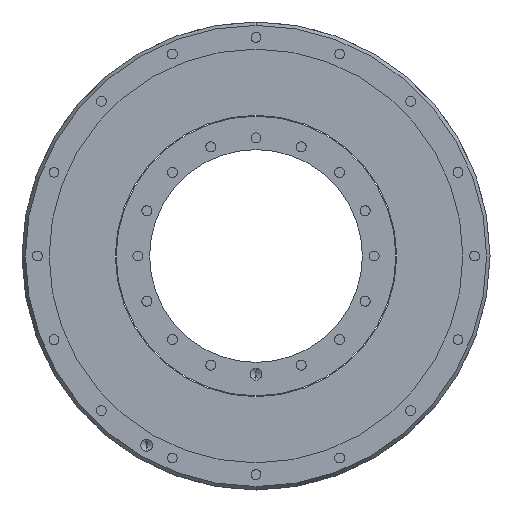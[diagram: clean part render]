
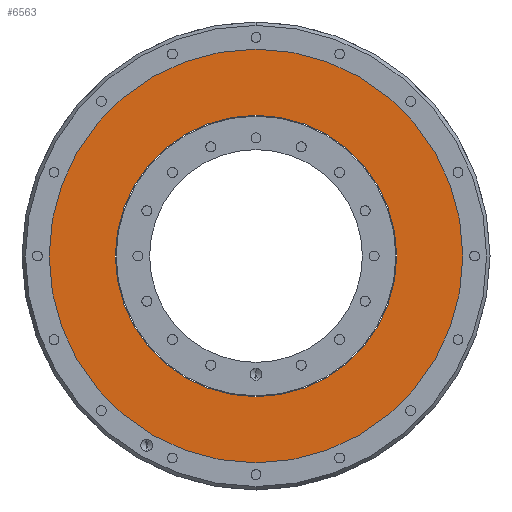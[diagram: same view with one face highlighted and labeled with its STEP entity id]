
A CAD part, front view. The second image highlights one B-rep face of the part: STEP entity #6563.
In plain terms, the highlighted planar face has unit normal (0, -1, 0).
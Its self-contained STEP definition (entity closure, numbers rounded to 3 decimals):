
#366 = EDGE_LOOP ( 'NONE', ( #6427, #8391 ) ) ;
#499 = ORIENTED_EDGE ( 'NONE', *, *, #5789, .T. ) ;
#821 = CARTESIAN_POINT ( 'NONE',  ( 0., 1., 59.5 ) ) ;
#1467 = FACE_BOUND ( 'NONE', #366, .T. ) ;
#1478 = CARTESIAN_POINT ( 'NONE',  ( 0., 1., -87.5 ) ) ;
#1723 = VERTEX_POINT ( 'NONE', #821 ) ;
#1930 = CIRCLE ( 'NONE', #7604, 59.5 ) ;
#2099 = CARTESIAN_POINT ( 'NONE',  ( 0., 1., 0. ) ) ;
#2372 = CARTESIAN_POINT ( 'NONE',  ( 0., 1., 0. ) ) ;
#2464 = EDGE_LOOP ( 'NONE', ( #6570, #499 ) ) ;
#2702 = VERTEX_POINT ( 'NONE', #3751 ) ;
#2814 = DIRECTION ( 'NONE',  ( 0., -1., 0. ) ) ;
#2824 = EDGE_CURVE ( 'NONE', #8951, #2702, #7439, .T. ) ;
#3088 = DIRECTION ( 'NONE',  ( 0., -1., 0. ) ) ;
#3112 = DIRECTION ( 'NONE',  ( 0., -1., 0. ) ) ;
#3142 = CIRCLE ( 'NONE', #8598, 59.5 ) ;
#3240 = FACE_OUTER_BOUND ( 'NONE', #2464, .T. ) ;
#3414 = CARTESIAN_POINT ( 'NONE',  ( 0., 1., 0. ) ) ;
#3526 = DIRECTION ( 'NONE',  ( 0., -1., 0. ) ) ;
#3751 = CARTESIAN_POINT ( 'NONE',  ( 0., 1., 87.5 ) ) ;
#3869 = DIRECTION ( 'NONE',  ( 0., 0., -1. ) ) ;
#3901 = CARTESIAN_POINT ( 'NONE',  ( 59.5, 1., 0. ) ) ;
#4230 = DIRECTION ( 'NONE',  ( 0., 0., -1. ) ) ;
#4421 = AXIS2_PLACEMENT_3D ( 'NONE', #3901, #7326, #3869 ) ;
#4617 = CARTESIAN_POINT ( 'NONE',  ( 0., 1., -59.5 ) ) ;
#5041 = VERTEX_POINT ( 'NONE', #4617 ) ;
#5615 = CIRCLE ( 'NONE', #8092, 87.5 ) ;
#5772 = DIRECTION ( 'NONE',  ( 0., 0., -1. ) ) ;
#5789 = EDGE_CURVE ( 'NONE', #2702, #8951, #5615, .T. ) ;
#6001 = PLANE ( 'NONE',  #4421 ) ;
#6198 = EDGE_CURVE ( 'NONE', #1723, #5041, #1930, .T. ) ;
#6416 = DIRECTION ( 'NONE',  ( 0., 0., -1. ) ) ;
#6427 = ORIENTED_EDGE ( 'NONE', *, *, #6542, .F. ) ;
#6542 = EDGE_CURVE ( 'NONE', #5041, #1723, #3142, .T. ) ;
#6563 = ADVANCED_FACE ( 'NONE', ( #3240, #1467 ), #6001, .T. ) ;
#6570 = ORIENTED_EDGE ( 'NONE', *, *, #2824, .T. ) ;
#6916 = DIRECTION ( 'NONE',  ( 0., 0., -1. ) ) ;
#7266 = CARTESIAN_POINT ( 'NONE',  ( 0., 1., 0. ) ) ;
#7326 = DIRECTION ( 'NONE',  ( 0., -1., 0. ) ) ;
#7439 = CIRCLE ( 'NONE', #8338, 87.5 ) ;
#7604 = AXIS2_PLACEMENT_3D ( 'NONE', #3414, #3526, #4230 ) ;
#8092 = AXIS2_PLACEMENT_3D ( 'NONE', #2372, #3088, #6416 ) ;
#8338 = AXIS2_PLACEMENT_3D ( 'NONE', #2099, #2814, #6916 ) ;
#8391 = ORIENTED_EDGE ( 'NONE', *, *, #6198, .F. ) ;
#8598 = AXIS2_PLACEMENT_3D ( 'NONE', #7266, #3112, #5772 ) ;
#8951 = VERTEX_POINT ( 'NONE', #1478 ) ;
